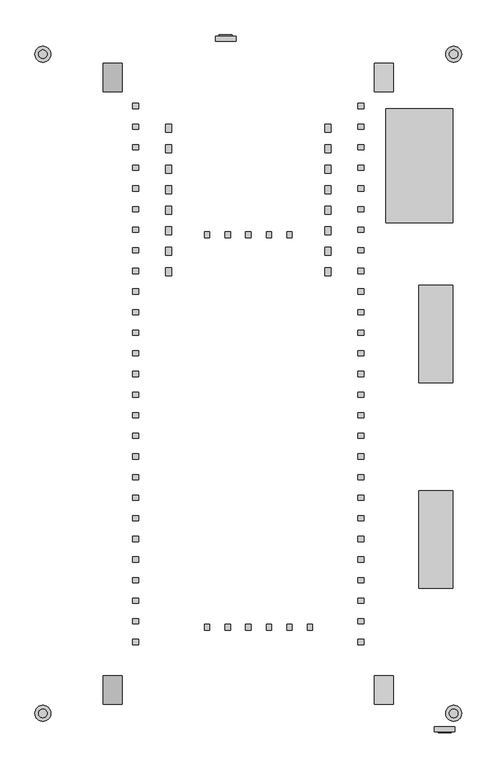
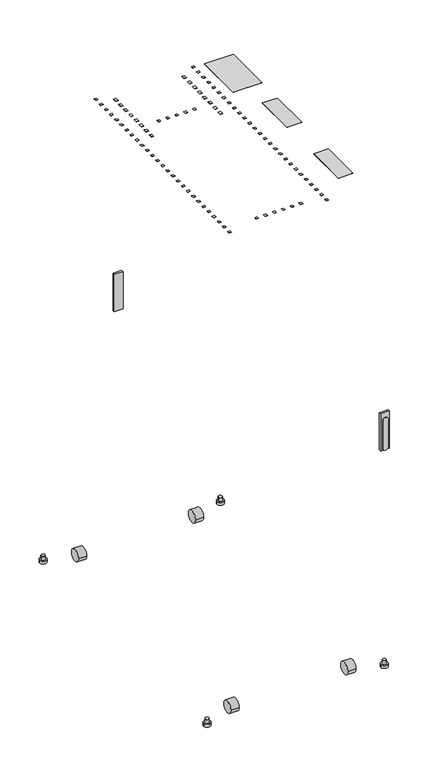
"""IFC4 building model written with IfcOpenShell, lengths in millimetres: proxy geometry, AR3350_NetShelter_SX_Series_Rack_Enclosure_Schneider_Electric_BIM_Model : AR3350 - NetShelter SX, 42U, 750mm Wide X 1200mm Depth."""

from ifc_helpers import new_model, si_unit, point, frame, frame_2d, origin, place, context, project, spatial, polyline, circle_curve, trimmed, segment, composite_curve, outline, extrude, source, transform, mapped, element, save
from ifc_brep_helpers import plane_surface, cylinder_surface, advanced_brep


def mechanical_equipment_8686b27a(model_context):
    return source(origin(), model_context, "Body", "SolidModel", [
        extrude(outline(polyline([(241.5, 547.0), (358.5, 547.0), (358.5, 347.0), (241.5, 347.0), (241.5, 547.0)])), frame((0.0, 0.0, 1991.0), z_axis=(0.0, 0.0, 1.0), x_axis=(1.0, 0.0, 0.0)), (0.0, 0.0, 1.0), 1.0),
        extrude(outline(polyline([(358.5, 238.0), (358.5, 67.0), (298.5, 67.0), (298.5, 238.0), (358.5, 238.0)])), frame((0.0, 0.0, 1991.0), z_axis=(0.0, 0.0, 1.0), x_axis=(1.0, 0.0, 0.0)), (0.0, 0.0, 1.0), 1.0),
        extrude(outline(polyline([(358.5, -122.0), (358.5, -293.0), (298.5, -293.0), (298.5, -122.0), (358.5, -122.0)])), frame((0.0, 0.0, 1991.0), z_axis=(0.0, 0.0, 1.0), x_axis=(1.0, 0.0, 0.0)), (0.0, 0.0, 1.0), 1.0),
        extrude(outline(composite_curve([segment(trimmed(circle_curve(frame_2d((-470.5, 25.0)), 25.0), [point((-495.5, 25.0))], [point((-445.5, 25.0))], False, "CARTESIAN"), True, "CONTINUOUS"), segment(trimmed(circle_curve(frame_2d((-470.5, 25.0)), 25.0), [point((-445.5, 25.0))], [point((-495.5, 25.0))], False, "CARTESIAN"), True, "CONTINUOUS")], self_intersect=False)), frame((-254.0, 0.0, 0.0), z_axis=(1.0, 0.0, 0.0), x_axis=(0.0, 1.0, 0.0)), (0.0, 0.0, 1.0), 33.0),
        extrude(outline(composite_curve([segment(trimmed(circle_curve(frame_2d((-470.5, 25.0)), 25.0), [point((-495.5, 25.0))], [point((-445.5, 25.0))], False, "CARTESIAN"), True, "CONTINUOUS"), segment(trimmed(circle_curve(frame_2d((-470.5, 25.0)), 25.0), [point((-445.5, 25.0))], [point((-495.5, 25.0))], False, "CARTESIAN"), True, "CONTINUOUS")], self_intersect=False)), frame((221.0, 0.0, 0.0), z_axis=(1.0, 0.0, 0.0), x_axis=(0.0, 1.0, 0.0)), (0.0, 0.0, 1.0), 33.0),
        extrude(outline(composite_curve([segment(trimmed(circle_curve(frame_2d((601.5, 25.0)), 25.0), [point((626.5, 25.0))], [point((576.5, 25.0))], False, "CARTESIAN"), True, "CONTINUOUS"), segment(trimmed(circle_curve(frame_2d((601.5, 25.0)), 25.0), [point((576.5, 25.0))], [point((626.5, 25.0))], False, "CARTESIAN"), True, "CONTINUOUS")], self_intersect=False)), frame((-254.0, 0.0, 0.0), z_axis=(1.0, 0.0, 0.0), x_axis=(0.0, 1.0, 0.0)), (0.0, 0.0, 1.0), 33.0),
        extrude(outline(composite_curve([segment(trimmed(circle_curve(frame_2d((601.5, 25.0)), 25.0), [point((626.5, 25.0))], [point((576.5, 25.0))], False, "CARTESIAN"), True, "CONTINUOUS"), segment(trimmed(circle_curve(frame_2d((601.5, 25.0)), 25.0), [point((576.5, 25.0))], [point((626.5, 25.0))], False, "CARTESIAN"), True, "CONTINUOUS")], self_intersect=False)), frame((221.0, 0.0, 0.0), z_axis=(1.0, 0.0, 0.0), x_axis=(0.0, 1.0, 0.0)), (0.0, 0.0, 1.0), 33.0),
        advanced_brep(
        [(326.3368526, -544.0499756, 1123.0590115), (326.3368526, -544.0499756, 963.0), (340.969139, -544.0499756, 963.0), (339.8974651, -544.0499756, 963.3154611), (337.9643537, -544.0499756, 964.3170777), (336.2655133, -544.0499756, 965.6659795), (332.9142777, -544.0499756, 973.9455005), (332.9142777, -544.0499756, 979.9131415), (332.9142777, -544.0499756, 981.4978364), (332.9142777, -544.0499756, 1091.5384088), (355.4225766, -544.0499756, 1091.5384088), (355.4225766, -544.0499756, 981.4978364), (355.4225766, -544.0499756, 979.9131415), (355.4225766, -544.0499756, 973.9455005), (352.071341, -544.0499756, 965.6659795), (350.3725006, -544.0499756, 964.3170777), (348.4393893, -544.0499756, 963.3154611), (347.3677154, -544.0499756, 963.0), (362.0, -544.0499756, 963.0), (362.0, -544.0499756, 1123.0590115), (326.3368526, -535.0499756, 1123.0590115), (362.0, -535.0499756, 1123.0590115), (362.0, -535.0499756, 963.0), (326.3368526, -535.0499756, 963.0), (352.071341, -546.0499756, 965.6659795), (355.4225766, -546.0499756, 973.9455005), (355.4225766, -546.0499756, 979.9131415), (355.4225766, -546.0499756, 981.4978364), (355.4225766, -546.0499756, 1091.5384088), (332.9142777, -546.0499756, 1091.5384088), (332.9142777, -546.0499756, 981.4978364), (332.9142777, -546.0499756, 979.9131415), (332.9142777, -546.0499756, 973.9455005), (336.2655133, -546.0499756, 965.6659795), (337.9643537, -546.0499756, 964.3170777), (339.8974651, -546.0499756, 963.3154611), (341.9918515, -546.0499756, 962.6989514), (344.1684272, -546.0499756, 962.4908285), (346.3450029, -546.0499756, 962.6989514), (348.4393893, -546.0499756, 963.3154611), (350.3725006, -546.0499756, 964.3170777), (341.9918515, -544.0499756, 962.6989514), (346.3450029, -544.0499756, 962.6989514), (344.1684272, -544.0499756, 962.4908285)],
        [
            (0, 1),
            (1, 2),
            (2, 3),
            (3, 4),
            (4, 5),
            (5, 6, circle_curve(frame((345.3369777, -544.0499756, 974.1557506), z_axis=(0.0, 1.0, 0.0), x_axis=(-1.0, 0.0, 0.0)), 12.4244791)),
            (6, 7),
            (7, 8),
            (8, 9),
            (9, 10, circle_curve(frame((344.1684272, -544.0499756, 1091.5384088), z_axis=(0.0, 1.0, 0.0), x_axis=(-1.0, 0.0, 0.0)), 11.2541494)),
            (10, 11),
            (11, 12),
            (12, 13),
            (13, 14, circle_curve(frame((342.9998766, -544.0499756, 974.1557506), z_axis=(0.0, 1.0, 0.0), x_axis=(-1.0, 0.0, 0.0)), 12.4244791)),
            (14, 15),
            (15, 16),
            (16, 17),
            (17, 18),
            (18, 19),
            (19, 0),
            (20, 21),
            (21, 22),
            (22, 23),
            (23, 20),
            (19, 21),
            (20, 0),
            (18, 22),
            (17, 2),
            (1, 23),
            (24, 25, circle_curve(frame((342.9998766, -546.0499756, 974.1557506), z_axis=(0.0, -1.0, 0.0), x_axis=(-1.0, 0.0, 0.0)), 12.4244791)),
            (25, 26),
            (26, 27),
            (27, 28),
            (28, 29, circle_curve(frame((344.1684272, -546.0499756, 1091.5384088), z_axis=(0.0, -1.0, 0.0), x_axis=(-1.0, 0.0, 0.0)), 11.2541494)),
            (29, 30),
            (30, 31),
            (31, 32),
            (32, 33, circle_curve(frame((345.3369777, -546.0499756, 974.1557506), z_axis=(0.0, -1.0, 0.0), x_axis=(-1.0, 0.0, 0.0)), 12.4244791)),
            (33, 34),
            (34, 35),
            (35, 36),
            (36, 37),
            (37, 38),
            (38, 39),
            (39, 40),
            (40, 24),
            (41, 2),
            (17, 42),
            (42, 43),
            (43, 41),
            (40, 15),
            (14, 24),
            (39, 16),
            (38, 42),
            (37, 43),
            (36, 41),
            (35, 3),
            (34, 4),
            (33, 5),
            (32, 6),
            (31, 7),
            (30, 8),
            (29, 9),
            (28, 10),
            (27, 11),
            (26, 12),
            (25, 13),
        ],
        [
            plane_surface(frame((362.0, -544.0499756, 1123.0590115), z_axis=(0.0, -1.0, 0.0), x_axis=(1.0, 0.0, 0.0))),
            plane_surface(frame((362.0, -535.0499756, 1123.0590115), z_axis=(0.0, 1.0, 0.0), x_axis=(-1.0, 0.0, 0.0))),
            plane_surface(frame((326.3368526, -544.0499756, 1123.0590115), z_axis=(0.0, 0.0, 1.0), x_axis=(0.0, 1.0, 0.0))),
            plane_surface(frame((362.0, -544.0499756, 1123.0590115), z_axis=(1.0, 0.0, 0.0), x_axis=(0.0, 1.0, 0.0))),
            plane_surface(frame((362.0, -544.0499756, 963.0), z_axis=(0.0, 0.0, -1.0), x_axis=(0.0, 1.0, 0.0))),
            plane_surface(frame((326.3368526, -544.0499756, 963.0), z_axis=(-1.0, 0.0, 0.0), x_axis=(0.0, 1.0, 0.0))),
            plane_surface(frame((350.3725006, -546.0499756, 964.3170777), z_axis=(0.0, -1.0, 0.0), x_axis=(-0.7831506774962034, 0.0, -0.6218319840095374))),
            plane_surface(frame((350.3725006, -544.0499756, 964.3170777), z_axis=(0.0, 1.0, 0.0), x_axis=(0.7831506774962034, 0.0, 0.6218319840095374))),
            plane_surface(frame((352.071341, -546.0499756, 965.6659795), z_axis=(0.6218319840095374, 0.0, -0.7831506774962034), x_axis=(0.0, 1.0, 0.0))),
            plane_surface(frame((350.3725006, -546.0499756, 964.3170777), z_axis=(0.4600502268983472, 0.0, -0.8878928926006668), x_axis=(0.0, 1.0, 0.0))),
            plane_surface(frame((348.4393893, -546.0499756, 963.3154611), z_axis=(0.28238288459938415, 0.0, -0.9593017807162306), x_axis=(0.0, 1.0, 0.0))),
            plane_surface(frame((346.3450029, -546.0499756, 962.6989514), z_axis=(0.09518525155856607, 0.0, -0.9954595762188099), x_axis=(0.0, 1.0, 0.0))),
            plane_surface(frame((344.1684272, -546.0499756, 962.4908285), z_axis=(-0.09518525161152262, 0.0, -0.9954595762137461), x_axis=(0.0, 1.0, 0.0))),
            plane_surface(frame((341.9918515, -546.0499756, 962.6989514), z_axis=(-0.2823828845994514, 0.0, -0.9593017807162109), x_axis=(0.0, 1.0, 0.0))),
            plane_surface(frame((339.8974651, -546.0499756, 963.3154611), z_axis=(-0.4600502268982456, 0.0, -0.8878928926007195), x_axis=(0.0, 1.0, 0.0))),
            plane_surface(frame((337.9643537, -546.0499756, 964.3170777), z_axis=(-0.6218319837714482, 0.0, -0.7831506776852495), x_axis=(0.0, 1.0, 0.0))),
            cylinder_surface(frame((345.3369777, -544.0499756, 974.1557506), z_axis=(0.0, -1.0, 0.0), x_axis=(-1.0, 0.0, 0.0)), 12.4244791),
            plane_surface(frame((332.9142777, -546.0499756, 973.9455005), z_axis=(-1.0, 0.0, 0.0), x_axis=(0.0, 1.0, 0.0))),
            plane_surface(frame((332.9142777, -546.0499756, 979.9131415), z_axis=(-1.0, 0.0, 0.0), x_axis=(0.0, 1.0, 0.0))),
            plane_surface(frame((332.9142777, -546.0499756, 981.4978364), z_axis=(-1.0, 0.0, 0.0), x_axis=(0.0, 1.0, 0.0))),
            cylinder_surface(frame((344.1684272, -544.0499756, 1091.5384088), z_axis=(0.0, -1.0, 0.0), x_axis=(-1.0, 0.0, 0.0)), 11.2541494),
            plane_surface(frame((355.4225766, -546.0499756, 1091.5384088), z_axis=(1.0, 0.0, -1.3564306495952e-10), x_axis=(0.0, 1.0, 0.0))),
            plane_surface(frame((355.4225766, -546.0499756, 981.4978364), z_axis=(1.0, 0.0, 0.0), x_axis=(0.0, 1.0, 0.0))),
            plane_surface(frame((355.4225766, -546.0499756, 979.9131415), z_axis=(1.0, 0.0, 0.0), x_axis=(0.0, 1.0, 0.0))),
            cylinder_surface(frame((342.9998766, -544.0499756, 974.1557506), z_axis=(0.0, -1.0, 0.0), x_axis=(-1.0, 0.0, 0.0)), 12.4244791),
        ],
        [
            (0, [[1, 2, 3, 4, 5, 6, 7, 8, 9, 10, 11, 12, 13, 14, 15, 16, 17, 18, 19, 20]]),
            (1, [[21, 22, 23, 24]]),
            (2, [[25, -21, 26, -20]]),
            (3, [[27, -22, -25, -19]]),
            (4, [[-27, -18, 28, -2, 29, -23]]),
            (5, [[-26, -24, -29, -1]]),
            (6, [[30, 31, 32, 33, 34, 35, 36, 37, 38, 39, 40, 41, 42, 43, 44, 45, 46]]),
            (7, [[47, -28, 48, 49, 50]]),
            (8, [[51, -15, 52, -46]]),
            (9, [[53, -16, -51, -45]]),
            (10, [[54, -48, -17, -53, -44]]),
            (11, [[55, -49, -54, -43]]),
            (12, [[56, -50, -55, -42]]),
            (13, [[57, -3, -47, -56, -41]]),
            (14, [[58, -4, -57, -40]]),
            (15, [[59, -5, -58, -39]]),
            (16, [[60, -6, -59, -38]]),
            (17, [[61, -7, -60, -37]]),
            (18, [[62, -8, -61, -36]]),
            (19, [[63, -9, -62, -35]]),
            (20, [[64, -10, -63, -34]]),
            (21, [[65, -11, -64, -33]]),
            (22, [[66, -12, -65, -32]]),
            (23, [[67, -13, -66, -31]]),
            (24, [[-52, -14, -67, -30]]),
        ],
    ),
        extrude(outline(composite_curve([segment(trimmed(circle_curve(frame_2d((360.0, -511.5)), 7.5), [point((367.5, -511.5))], [point((352.5, -511.5))], False, "CARTESIAN"), True, "CONTINUOUS"), segment(trimmed(circle_curve(frame_2d((360.0, -511.5)), 7.5), [point((352.5, -511.5))], [point((367.5, -511.5))], False, "CARTESIAN"), True, "CONTINUOUS")], self_intersect=False)), frame((0.0, 0.0, 21.0), z_axis=(0.0, 0.0, 1.0), x_axis=(1.0, 0.0, 0.0)), (0.0, 0.0, 1.0), 16.0),
        extrude(outline(composite_curve([segment(trimmed(circle_curve(frame_2d((360.0, -511.5)), 14.0), [point((374.0, -511.5))], [point((346.0, -511.5))], False, "CARTESIAN"), True, "CONTINUOUS"), segment(trimmed(circle_curve(frame_2d((360.0, -511.5)), 14.0), [point((346.0, -511.5))], [point((374.0, -511.5))], False, "CARTESIAN"), True, "CONTINUOUS")], self_intersect=False)), frame((0.0, 0.0, 9.0), z_axis=(0.0, 0.0, 1.0), x_axis=(1.0, 0.0, 0.0)), (0.0, 0.0, 1.0), 12.0),
        extrude(outline(composite_curve([segment(trimmed(circle_curve(frame_2d((-360.0, -511.5)), 7.5), [point((-367.5, -511.5))], [point((-352.5, -511.5))], False, "CARTESIAN"), True, "CONTINUOUS"), segment(trimmed(circle_curve(frame_2d((-360.0, -511.5)), 7.5), [point((-352.5, -511.5))], [point((-367.5, -511.5))], False, "CARTESIAN"), True, "CONTINUOUS")], self_intersect=False)), frame((0.0, 0.0, 21.0), z_axis=(0.0, 0.0, 1.0), x_axis=(1.0, 0.0, 0.0)), (0.0, 0.0, 1.0), 16.0),
        extrude(outline(composite_curve([segment(trimmed(circle_curve(frame_2d((-360.0, -511.5)), 14.0), [point((-374.0, -511.5))], [point((-346.0, -511.5))], False, "CARTESIAN"), True, "CONTINUOUS"), segment(trimmed(circle_curve(frame_2d((-360.0, -511.5)), 14.0), [point((-346.0, -511.5))], [point((-374.0, -511.5))], False, "CARTESIAN"), True, "CONTINUOUS")], self_intersect=False)), frame((0.0, 0.0, 9.0), z_axis=(0.0, 0.0, 1.0), x_axis=(1.0, 0.0, 0.0)), (0.0, 0.0, 1.0), 12.0),
        extrude(outline(composite_curve([segment(trimmed(circle_curve(frame_2d((360.0, 642.5)), 7.5), [point((367.5, 642.5))], [point((352.5, 642.5))], False, "CARTESIAN"), True, "CONTINUOUS"), segment(trimmed(circle_curve(frame_2d((360.0, 642.5)), 7.5), [point((352.5, 642.5))], [point((367.5, 642.5))], False, "CARTESIAN"), True, "CONTINUOUS")], self_intersect=False)), frame((0.0, 0.0, 21.0), z_axis=(0.0, 0.0, 1.0), x_axis=(1.0, 0.0, 0.0)), (0.0, 0.0, 1.0), 16.0),
        extrude(outline(composite_curve([segment(trimmed(circle_curve(frame_2d((360.0, 642.5)), 14.0), [point((374.0, 642.5))], [point((346.0, 642.5))], False, "CARTESIAN"), True, "CONTINUOUS"), segment(trimmed(circle_curve(frame_2d((360.0, 642.5)), 14.0), [point((346.0, 642.5))], [point((374.0, 642.5))], False, "CARTESIAN"), True, "CONTINUOUS")], self_intersect=False)), frame((0.0, 0.0, 9.0), z_axis=(0.0, 0.0, 1.0), x_axis=(1.0, 0.0, 0.0)), (0.0, 0.0, 1.0), 12.0),
        advanced_brep(
        [(-367.5, 642.5, 37.0), (-352.5, 642.5, 37.0), (-367.5, 642.5, 21.0), (-352.5, 642.5, 21.0), (-374.0, 642.5, 21.0), (-346.0, 642.5, 21.0), (-374.0, 642.5, 9.0), (-346.0, 642.5, 9.0)],
        [
            (0, 1, circle_curve(frame((-360.0, 642.5, 37.0), z_axis=(0.0, 0.0, 1.0), x_axis=(1.0, 0.0, 0.0)), 7.5)),
            (1, 0, circle_curve(frame((-360.0, 642.5, 37.0), z_axis=(0.0, 0.0, 1.0), x_axis=(1.0, 0.0, 0.0)), 7.5)),
            (0, 2),
            (2, 3, circle_curve(frame((-360.0, 642.5, 21.0), z_axis=(0.0, 0.0, 1.0), x_axis=(1.0, 0.0, 0.0)), 7.5)),
            (3, 1),
            (3, 2, circle_curve(frame((-360.0, 642.5, 21.0), z_axis=(0.0, 0.0, 1.0), x_axis=(1.0, 0.0, 0.0)), 7.5)),
            (4, 5, circle_curve(frame((-360.0, 642.5, 21.0), z_axis=(0.0, 0.0, 1.0), x_axis=(1.0, 0.0, 0.0)), 14.0)),
            (5, 4, circle_curve(frame((-360.0, 642.5, 21.0), z_axis=(0.0, 0.0, 1.0), x_axis=(1.0, 0.0, 0.0)), 14.0)),
            (6, 7, circle_curve(frame((-360.0, 642.5, 9.0), z_axis=(0.0, 0.0, -1.0), x_axis=(1.0, 0.0, 0.0)), 14.0)),
            (7, 6, circle_curve(frame((-360.0, 642.5, 9.0), z_axis=(0.0, 0.0, -1.0), x_axis=(1.0, 0.0, 0.0)), 14.0)),
            (4, 6),
            (7, 5),
        ],
        [
            plane_surface(frame((-352.5, 642.5, 37.0), z_axis=(0.0, 0.0, 1.0), x_axis=(0.0, 1.0, 0.0))),
            cylinder_surface(frame((-360.0, 642.5, 21.0), z_axis=(0.0, 0.0, 1.0), x_axis=(1.0, 0.0, 0.0)), 7.5),
            plane_surface(frame((-346.0, 642.5, 21.0), z_axis=(0.0, 0.0, 1.0), x_axis=(0.0, 1.0, 0.0))),
            plane_surface(frame((-346.0, 642.5, 9.0), z_axis=(0.0, 0.0, -1.0), x_axis=(0.0, -1.0, 0.0))),
            cylinder_surface(frame((-360.0, 642.5, 9.0), z_axis=(0.0, 0.0, 1.0), x_axis=(1.0, 0.0, 0.0)), 14.0),
        ],
        [
            (0, [[1, 2]]),
            (1, [[-1, 3, 4, 5]]),
            (1, [[-2, -5, 6, -3]]),
            (2, [[7, 8], [-4, -6]]),
            (3, [[9, 10]]),
            (4, [[-7, 11, -10, 12]]),
            (4, [[-8, -12, -9, -11]]),
        ],
    ),
        advanced_brep(
        [(-57.4775271, 673.9999881, 1122.0590115), (-21.8143797, 673.9999881, 1122.0590115), (-21.8143797, 673.9999881, 962.0), (-36.4466643, 673.9999881, 962.0), (-35.3749904, 673.9999881, 962.3154611), (-33.4418791, 673.9999881, 963.3170777), (-31.7430387, 673.9999881, 964.6659794), (-28.3918031, 673.9999881, 972.9455005), (-28.3918031, 673.9999881, 978.9131415), (-28.3918031, 673.9999881, 980.4978364), (-28.391803, 673.9999881, 1090.5384088), (-50.9001019, 673.9999881, 1090.5384088), (-50.900102, 673.9999881, 980.4978364), (-50.900102, 673.9999881, 978.9131415), (-50.900102, 673.9999881, 972.9455005), (-47.5488663, 673.9999881, 964.6659795), (-45.8500259, 673.9999881, 963.3170777), (-43.9169146, 673.9999881, 962.3154611), (-42.8452407, 673.9999881, 962.0), (-57.4775271, 673.9999881, 962.0), (-57.4775271, 664.9999881, 1122.0590115), (-57.4775271, 664.9999881, 962.0), (-21.8143797, 664.9999881, 962.0), (-21.8143797, 664.9999881, 1122.0590115), (-31.7430387, 675.9999881, 964.6659794), (-33.4418791, 675.9999881, 963.3170777), (-35.3749904, 675.9999881, 962.3154611), (-37.4693768, 675.9999881, 961.6989514), (-39.6459525, 675.9999881, 961.4908285), (-41.8225282, 675.9999881, 961.6989514), (-43.9169146, 675.9999881, 962.3154611), (-45.8500259, 675.9999881, 963.3170777), (-47.5488663, 675.9999881, 964.6659795), (-50.900102, 675.9999881, 972.9455005), (-50.900102, 675.9999881, 978.9131415), (-50.900102, 675.9999881, 980.4978364), (-50.900102, 675.9999881, 1090.5384088), (-28.391803, 675.9999881, 1090.5384088), (-28.3918031, 675.9999881, 980.4978364), (-28.3918031, 675.9999881, 978.9131415), (-28.3918031, 675.9999881, 972.9455005), (-41.8225282, 673.9999881, 961.6989514), (-39.6459525, 673.9999881, 961.4908285), (-37.4693768, 673.9999881, 961.6989514)],
        [
            (0, 1),
            (1, 2),
            (2, 3),
            (3, 4),
            (4, 5),
            (5, 6),
            (6, 7, circle_curve(frame((-40.814503, 673.9999881, 973.1557506), z_axis=(0.0, -1.0, 0.0), x_axis=(-1.0, 0.0, 0.0)), 12.4244791)),
            (7, 8),
            (8, 9),
            (9, 10),
            (10, 11, circle_curve(frame((-39.6459525, 673.9999881, 1090.5384088), z_axis=(0.0, -1.0, 0.0), x_axis=(-1.0, 0.0, 0.0)), 11.2541494)),
            (11, 12),
            (12, 13),
            (13, 14),
            (14, 15, circle_curve(frame((-38.477402, 673.9999881, 973.1557506), z_axis=(0.0, -1.0, 0.0), x_axis=(-1.0, 0.0, 0.0)), 12.4244791)),
            (15, 16),
            (16, 17),
            (17, 18),
            (18, 19),
            (19, 0),
            (20, 21),
            (21, 22),
            (22, 23),
            (23, 20),
            (0, 20),
            (23, 1),
            (22, 2),
            (21, 19),
            (18, 3),
            (24, 25),
            (25, 26),
            (26, 27),
            (27, 28),
            (28, 29),
            (29, 30),
            (30, 31),
            (31, 32),
            (32, 33, circle_curve(frame((-38.477402, 675.9999881, 973.1557506), z_axis=(0.0, 1.0, 0.0), x_axis=(-1.0, 0.0, 0.0)), 12.4244791)),
            (33, 34),
            (34, 35),
            (35, 36),
            (36, 37, circle_curve(frame((-39.6459525, 675.9999881, 1090.5384088), z_axis=(0.0, 1.0, 0.0), x_axis=(-1.0, 0.0, 0.0)), 11.2541494)),
            (37, 38),
            (38, 39),
            (39, 40),
            (40, 24, circle_curve(frame((-40.814503, 675.9999881, 973.1557506), z_axis=(0.0, 1.0, 0.0), x_axis=(-1.0, 0.0, 0.0)), 12.4244791)),
            (41, 42),
            (42, 43),
            (43, 3),
            (18, 41),
            (24, 6),
            (5, 25),
            (4, 26),
            (43, 27),
            (42, 28),
            (41, 29),
            (17, 30),
            (16, 31),
            (15, 32),
            (14, 33),
            (13, 34),
            (12, 35),
            (11, 36),
            (10, 37),
            (9, 38),
            (8, 39),
            (7, 40),
        ],
        [
            plane_surface(frame((-21.8143797, 673.9999881, 1122.0590115), z_axis=(0.0, 1.0, 0.0), x_axis=(1.0, 0.0, 0.0))),
            plane_surface(frame((-21.8143797, 664.9999881, 1122.0590115), z_axis=(0.0, -1.0, 0.0), x_axis=(-1.0, 0.0, 0.0))),
            plane_surface(frame((-57.4775271, 673.9999881, 1122.0590115), z_axis=(0.0, 0.0, 1.0), x_axis=(0.0, -1.0, 0.0))),
            plane_surface(frame((-21.8143797, 673.9999881, 1122.0590115), z_axis=(1.0, 0.0, 0.0), x_axis=(0.0, -1.0, 0.0))),
            plane_surface(frame((-21.8143797, 673.9999881, 962.0), z_axis=(0.0, 0.0, -1.0), x_axis=(0.0, -1.0, 0.0))),
            plane_surface(frame((-57.4775271, 673.9999881, 962.0), z_axis=(-1.0, 0.0, 0.0), x_axis=(0.0, -1.0, 0.0))),
            plane_surface(frame((-33.4418791, 675.9999881, 963.3170777), z_axis=(0.0, 1.0, 0.0), x_axis=(-0.7831506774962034, 0.0, -0.6218319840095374))),
            plane_surface(frame((-33.4418791, 673.9999881, 963.3170777), z_axis=(0.0, -1.0, 0.0), x_axis=(0.7831506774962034, 0.0, 0.6218319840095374))),
            plane_surface(frame((-31.7430387, 675.9999881, 964.6659794), z_axis=(0.6218319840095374, 0.0, -0.7831506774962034), x_axis=(0.0, -1.0, 0.0))),
            plane_surface(frame((-33.4418791, 675.9999881, 963.3170777), z_axis=(0.4600502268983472, 0.0, -0.8878928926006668), x_axis=(0.0, -1.0, 0.0))),
            plane_surface(frame((-35.3749904, 675.9999881, 962.3154611), z_axis=(0.28238288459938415, 0.0, -0.9593017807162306), x_axis=(0.0, -1.0, 0.0))),
            plane_surface(frame((-37.4693768, 675.9999881, 961.6989514), z_axis=(0.09518525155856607, 0.0, -0.9954595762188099), x_axis=(0.0, -1.0, 0.0))),
            plane_surface(frame((-39.6459525, 675.9999881, 961.4908285), z_axis=(-0.09518525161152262, 0.0, -0.9954595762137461), x_axis=(0.0, -1.0, 0.0))),
            plane_surface(frame((-41.8225282, 675.9999881, 961.6989514), z_axis=(-0.2823828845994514, 0.0, -0.9593017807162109), x_axis=(0.0, -1.0, 0.0))),
            plane_surface(frame((-43.9169146, 675.9999881, 962.3154611), z_axis=(-0.4600502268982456, 0.0, -0.8878928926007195), x_axis=(0.0, -1.0, 0.0))),
            plane_surface(frame((-45.8500259, 675.9999881, 963.3170777), z_axis=(-0.6218319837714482, 0.0, -0.7831506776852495), x_axis=(0.0, -1.0, 0.0))),
            cylinder_surface(frame((-38.477402, 673.9999881, 973.1557506), z_axis=(0.0, 1.0, 0.0), x_axis=(-1.0, 0.0, 0.0)), 12.4244791),
            plane_surface(frame((-50.900102, 675.9999881, 972.9455005), z_axis=(-1.0, 0.0, 0.0), x_axis=(0.0, -1.0, 0.0))),
            plane_surface(frame((-50.900102, 675.9999881, 978.9131415), z_axis=(-1.0, 0.0, 0.0), x_axis=(0.0, -1.0, 0.0))),
            plane_surface(frame((-50.900102, 675.9999881, 980.4978364), z_axis=(-1.0, 0.0, 0.0), x_axis=(0.0, -1.0, 0.0))),
            cylinder_surface(frame((-39.6459525, 673.9999881, 1090.5384088), z_axis=(0.0, 1.0, 0.0), x_axis=(-1.0, 0.0, 0.0)), 11.2541494),
            plane_surface(frame((-28.391803, 675.9999881, 1090.5384088), z_axis=(1.0, 0.0, -1.3564306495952e-10), x_axis=(0.0, -1.0, 0.0))),
            plane_surface(frame((-28.3918031, 675.9999881, 980.4978364), z_axis=(1.0, 0.0, 0.0), x_axis=(0.0, -1.0, 0.0))),
            plane_surface(frame((-28.3918031, 675.9999881, 978.9131415), z_axis=(1.0, 0.0, 0.0), x_axis=(0.0, -1.0, 0.0))),
            cylinder_surface(frame((-40.814503, 673.9999881, 973.1557506), z_axis=(0.0, 1.0, 0.0), x_axis=(-1.0, 0.0, 0.0)), 12.4244791),
        ],
        [
            (0, [[1, 2, 3, 4, 5, 6, 7, 8, 9, 10, 11, 12, 13, 14, 15, 16, 17, 18, 19, 20]]),
            (1, [[21, 22, 23, 24]]),
            (2, [[-1, 25, -24, 26]]),
            (3, [[-2, -26, -23, 27]]),
            (4, [[-22, 28, -19, 29, -3, -27]]),
            (5, [[-20, -28, -21, -25]]),
            (6, [[30, 31, 32, 33, 34, 35, 36, 37, 38, 39, 40, 41, 42, 43, 44, 45, 46]]),
            (7, [[47, 48, 49, -29, 50]]),
            (8, [[-30, 51, -6, 52]]),
            (9, [[-31, -52, -5, 53]]),
            (10, [[-32, -53, -4, -49, 54]]),
            (11, [[-33, -54, -48, 55]]),
            (12, [[-34, -55, -47, 56]]),
            (13, [[-35, -56, -50, -18, 57]]),
            (14, [[-36, -57, -17, 58]]),
            (15, [[-37, -58, -16, 59]]),
            (16, [[-38, -59, -15, 60]]),
            (17, [[-39, -60, -14, 61]]),
            (18, [[-40, -61, -13, 62]]),
            (19, [[-41, -62, -12, 63]]),
            (20, [[-42, -63, -11, 64]]),
            (21, [[-43, -64, -10, 65]]),
            (22, [[-44, -65, -9, 66]]),
            (23, [[-45, -66, -8, 67]]),
            (24, [[-46, -67, -7, -51]]),
        ],
    ),
        extrude(outline(polyline([(-202.5000006, 519.9066986), (-192.4999952, 519.9066986), (-192.4999952, 510.9066952), (-202.5000006, 510.9066952), (-202.5000006, 519.9066986)])), frame((0.0, 0.0, 1991.0), z_axis=(0.0, 0.0, 1.0), x_axis=(1.0, 0.0, 0.0)), (0.0, 0.0, 1.0), 1.0),
        extrude(outline(polyline([(192.4999952, 519.9066986), (202.5000006, 519.9066986), (202.5000006, 510.9066952), (192.4999952, 510.9066952), (192.4999952, 519.9066986)])), frame((0.0, 0.0, 1991.0), z_axis=(0.0, 0.0, 1.0), x_axis=(1.0, 0.0, 0.0)), (0.0, 0.0, 1.0), 1.0),
        extrude(outline(polyline([(-202.5000006, 483.8133972), (-192.4999952, 483.8133972), (-192.4999952, 474.8133938), (-202.5000006, 474.8133938), (-202.5000006, 483.8133972)])), frame((0.0, 0.0, 1991.0), z_axis=(0.0, 0.0, 1.0), x_axis=(1.0, 0.0, 0.0)), (0.0, 0.0, 1.0), 1.0),
        extrude(outline(polyline([(192.4999952, 483.8133972), (202.5000006, 483.8133972), (202.5000006, 474.8133938), (192.4999952, 474.8133938), (192.4999952, 483.8133972)])), frame((0.0, 0.0, 1991.0), z_axis=(0.0, 0.0, 1.0), x_axis=(1.0, 0.0, 0.0)), (0.0, 0.0, 1.0), 1.0),
        extrude(outline(polyline([(-202.5000006, 447.7200957), (-192.4999952, 447.7200957), (-192.4999952, 438.7200924), (-202.5000006, 438.7200924), (-202.5000006, 447.7200957)])), frame((0.0, 0.0, 1991.0), z_axis=(0.0, 0.0, 1.0), x_axis=(1.0, 0.0, 0.0)), (0.0, 0.0, 1.0), 1.0),
        extrude(outline(polyline([(192.4999952, 447.7200957), (202.5000006, 447.7200957), (202.5000006, 438.7200924), (192.4999952, 438.7200924), (192.4999952, 447.7200957)])), frame((0.0, 0.0, 1991.0), z_axis=(0.0, 0.0, 1.0), x_axis=(1.0, 0.0, 0.0)), (0.0, 0.0, 1.0), 1.0),
        extrude(outline(polyline([(-202.5000006, 411.6267943), (-192.4999952, 411.6267943), (-192.4999952, 402.626791), (-202.5000006, 402.626791), (-202.5000006, 411.6267943)])), frame((0.0, 0.0, 1991.0), z_axis=(0.0, 0.0, 1.0), x_axis=(1.0, 0.0, 0.0)), (0.0, 0.0, 1.0), 1.0),
        extrude(outline(polyline([(192.4999952, 411.6267943), (202.5000006, 411.6267943), (202.5000006, 402.626791), (192.4999952, 402.626791), (192.4999952, 411.6267943)])), frame((0.0, 0.0, 1991.0), z_axis=(0.0, 0.0, 1.0), x_axis=(1.0, 0.0, 0.0)), (0.0, 0.0, 1.0), 1.0),
        extrude(outline(polyline([(-202.5000006, 375.5334929), (-192.4999952, 375.5334929), (-192.4999952, 366.5334896), (-202.5000006, 366.5334896), (-202.5000006, 375.5334929)])), frame((0.0, 0.0, 1991.0), z_axis=(0.0, 0.0, 1.0), x_axis=(1.0, 0.0, 0.0)), (0.0, 0.0, 1.0), 1.0),
        extrude(outline(polyline([(192.4999952, 375.5334929), (202.5000006, 375.5334929), (202.5000006, 366.5334896), (192.4999952, 366.5334896), (192.4999952, 375.5334929)])), frame((0.0, 0.0, 1991.0), z_axis=(0.0, 0.0, 1.0), x_axis=(1.0, 0.0, 0.0)), (0.0, 0.0, 1.0), 1.0),
        extrude(outline(polyline([(-202.5000006, 339.4401915), (-192.4999952, 339.4401915), (-192.4999952, 330.4401881), (-202.5000006, 330.4401881), (-202.5000006, 339.4401915)])), frame((0.0, 0.0, 1991.0), z_axis=(0.0, 0.0, 1.0), x_axis=(1.0, 0.0, 0.0)), (0.0, 0.0, 1.0), 1.0),
        extrude(outline(polyline([(192.4999952, 339.4401915), (202.5000006, 339.4401915), (202.5000006, 330.4401881), (192.4999952, 330.4401881), (192.4999952, 339.4401915)])), frame((0.0, 0.0, 1991.0), z_axis=(0.0, 0.0, 1.0), x_axis=(1.0, 0.0, 0.0)), (0.0, 0.0, 1.0), 1.0),
        extrude(outline(polyline([(-202.5000006, 303.3468901), (-192.4999952, 303.3468901), (-192.4999952, 294.3468867), (-202.5000006, 294.3468867), (-202.5000006, 303.3468901)])), frame((0.0, 0.0, 1991.0), z_axis=(0.0, 0.0, 1.0), x_axis=(1.0, 0.0, 0.0)), (0.0, 0.0, 1.0), 1.0),
        extrude(outline(polyline([(192.4999952, 303.3468901), (202.5000006, 303.3468901), (202.5000006, 294.3468867), (192.4999952, 294.3468867), (192.4999952, 303.3468901)])), frame((0.0, 0.0, 1991.0), z_axis=(0.0, 0.0, 1.0), x_axis=(1.0, 0.0, 0.0)), (0.0, 0.0, 1.0), 1.0),
        extrude(outline(polyline([(-202.5000006, 267.2535886), (-192.4999952, 267.2535886), (-192.4999952, 258.2535853), (-202.5000006, 258.2535853), (-202.5000006, 267.2535886)])), frame((0.0, 0.0, 1991.0), z_axis=(0.0, 0.0, 1.0), x_axis=(1.0, 0.0, 0.0)), (0.0, 0.0, 1.0), 1.0),
        extrude(outline(polyline([(192.4999952, 267.2535886), (202.5000006, 267.2535886), (202.5000006, 258.2535853), (192.4999952, 258.2535853), (192.4999952, 267.2535886)])), frame((0.0, 0.0, 1991.0), z_axis=(0.0, 0.0, 1.0), x_axis=(1.0, 0.0, 0.0)), (0.0, 0.0, 1.0), 1.0),
        extrude(outline(polyline([(-134.7000003, 519.9992911), (-134.7000003, 505.9992925), (-144.5000023, 505.9992925), (-144.5000023, 519.9992911), (-134.7000003, 519.9992911)])), frame((0.0, 0.0, 1991.0), z_axis=(0.0, 0.0, 1.0), x_axis=(1.0, 0.0, 0.0)), (0.0, 0.0, 1.0), 1.0),
        extrude(outline(polyline([(144.5000023, 519.9992911), (144.5000023, 505.9992925), (134.7000003, 505.9992925), (134.7000003, 519.9992911), (144.5000023, 519.9992911)])), frame((0.0, 0.0, 1991.0), z_axis=(0.0, 0.0, 1.0), x_axis=(1.0, 0.0, 0.0)), (0.0, 0.0, 1.0), 1.0),
        extrude(outline(polyline([(-134.7000003, 483.9985822), (-134.7000003, 469.9985836), (-144.5000023, 469.9985836), (-144.5000023, 483.9985822), (-134.7000003, 483.9985822)])), frame((0.0, 0.0, 1991.0), z_axis=(0.0, 0.0, 1.0), x_axis=(1.0, 0.0, 0.0)), (0.0, 0.0, 1.0), 1.0),
        extrude(outline(polyline([(144.5000023, 483.9985822), (144.5000023, 469.9985836), (134.7000003, 469.9985836), (134.7000003, 483.9985822), (144.5000023, 483.9985822)])), frame((0.0, 0.0, 1991.0), z_axis=(0.0, 0.0, 1.0), x_axis=(1.0, 0.0, 0.0)), (0.0, 0.0, 1.0), 1.0),
        extrude(outline(polyline([(-134.7000003, 447.9978733), (-134.7000003, 433.9978747), (-144.5000023, 433.9978747), (-144.5000023, 447.9978733), (-134.7000003, 447.9978733)])), frame((0.0, 0.0, 1991.0), z_axis=(0.0, 0.0, 1.0), x_axis=(1.0, 0.0, 0.0)), (0.0, 0.0, 1.0), 1.0),
        extrude(outline(polyline([(144.5000023, 447.9978733), (144.5000023, 433.9978747), (134.7000003, 433.9978747), (134.7000003, 447.9978733), (144.5000023, 447.9978733)])), frame((0.0, 0.0, 1991.0), z_axis=(0.0, 0.0, 1.0), x_axis=(1.0, 0.0, 0.0)), (0.0, 0.0, 1.0), 1.0),
        extrude(outline(polyline([(-134.7000003, 411.9971643), (-134.7000003, 397.9971658), (-144.5000023, 397.9971658), (-144.5000023, 411.9971643), (-134.7000003, 411.9971643)])), frame((0.0, 0.0, 1991.0), z_axis=(0.0, 0.0, 1.0), x_axis=(1.0, 0.0, 0.0)), (0.0, 0.0, 1.0), 1.0),
        extrude(outline(polyline([(144.5000023, 411.9971643), (144.5000023, 397.9971658), (134.7000003, 397.9971658), (134.7000003, 411.9971643), (144.5000023, 411.9971643)])), frame((0.0, 0.0, 1991.0), z_axis=(0.0, 0.0, 1.0), x_axis=(1.0, 0.0, 0.0)), (0.0, 0.0, 1.0), 1.0),
        extrude(outline(polyline([(-134.7000003, 375.9964554), (-134.7000003, 361.9964569), (-144.5000023, 361.9964569), (-144.5000023, 375.9964554), (-134.7000003, 375.9964554)])), frame((0.0, 0.0, 1991.0), z_axis=(0.0, 0.0, 1.0), x_axis=(1.0, 0.0, 0.0)), (0.0, 0.0, 1.0), 1.0),
        extrude(outline(polyline([(144.5000023, 375.9964554), (144.5000023, 361.9964569), (134.7000003, 361.9964569), (134.7000003, 375.9964554), (144.5000023, 375.9964554)])), frame((0.0, 0.0, 1991.0), z_axis=(0.0, 0.0, 1.0), x_axis=(1.0, 0.0, 0.0)), (0.0, 0.0, 1.0), 1.0),
        extrude(outline(polyline([(-134.7000003, 339.9957465), (-134.7000003, 325.9957479), (-144.5000023, 325.9957479), (-144.5000023, 339.9957465), (-134.7000003, 339.9957465)])), frame((0.0, 0.0, 1991.0), z_axis=(0.0, 0.0, 1.0), x_axis=(1.0, 0.0, 0.0)), (0.0, 0.0, 1.0), 1.0),
        extrude(outline(polyline([(144.5000023, 339.9957465), (144.5000023, 325.9957479), (134.7000003, 325.9957479), (134.7000003, 339.9957465), (144.5000023, 339.9957465)])), frame((0.0, 0.0, 1991.0), z_axis=(0.0, 0.0, 1.0), x_axis=(1.0, 0.0, 0.0)), (0.0, 0.0, 1.0), 1.0),
        extrude(outline(polyline([(-134.7000003, 303.9950376), (-134.7000003, 289.995039), (-144.5000023, 289.995039), (-144.5000023, 303.9950376), (-134.7000003, 303.9950376)])), frame((0.0, 0.0, 1991.0), z_axis=(0.0, 0.0, 1.0), x_axis=(1.0, 0.0, 0.0)), (0.0, 0.0, 1.0), 1.0),
        extrude(outline(polyline([(144.5000023, 303.9950376), (144.5000023, 289.995039), (134.7000003, 289.995039), (134.7000003, 303.9950376), (144.5000023, 303.9950376)])), frame((0.0, 0.0, 1991.0), z_axis=(0.0, 0.0, 1.0), x_axis=(1.0, 0.0, 0.0)), (0.0, 0.0, 1.0), 1.0),
        extrude(outline(polyline([(-134.7000003, 267.9943287), (-134.7000003, 253.9943301), (-144.5000023, 253.9943301), (-144.5000023, 267.9943287), (-134.7000003, 267.9943287)])), frame((0.0, 0.0, 1991.0), z_axis=(0.0, 0.0, 1.0), x_axis=(1.0, 0.0, 0.0)), (0.0, 0.0, 1.0), 1.0),
        extrude(outline(polyline([(144.5000023, 267.9943287), (144.5000023, 253.9943301), (134.7000003, 253.9943301), (134.7000003, 267.9943287), (144.5000023, 267.9943287)])), frame((0.0, 0.0, 1991.0), z_axis=(0.0, 0.0, 1.0), x_axis=(1.0, 0.0, 0.0)), (0.0, 0.0, 1.0), 1.0),
        extrude(outline(polyline([(76.4999998, -365.919142), (67.5000039, -365.919142), (67.5000039, -355.9191515), (76.4999998, -355.9191515), (76.4999998, -365.919142)])), frame((0.0, 0.0, 1991.0), z_axis=(0.0, 0.0, 1.0), x_axis=(1.0, 0.0, 0.0)), (0.0, 0.0, 1.0), 1.0),
        extrude(outline(polyline([(76.4999998, 321.0808645), (67.5000039, 321.0808645), (67.5000039, 331.0808549), (76.4999998, 331.0808549), (76.4999998, 321.0808645)])), frame((0.0, 0.0, 1991.0), z_axis=(0.0, 0.0, 1.0), x_axis=(1.0, 0.0, 0.0)), (0.0, 0.0, 1.0), 1.0),
        extrude(outline(polyline([(-202.5000006, 231.1602872), (-192.4999952, 231.1602872), (-192.4999952, 222.1602839), (-202.5000006, 222.1602839), (-202.5000006, 231.1602872)])), frame((0.0, 0.0, 1991.0), z_axis=(0.0, 0.0, 1.0), x_axis=(1.0, 0.0, 0.0)), (0.0, 0.0, 1.0), 1.0),
        extrude(outline(polyline([(192.4999952, 231.1602872), (202.5000006, 231.1602872), (202.5000006, 222.1602839), (192.4999952, 222.1602839), (192.4999952, 231.1602872)])), frame((0.0, 0.0, 1991.0), z_axis=(0.0, 0.0, 1.0), x_axis=(1.0, 0.0, 0.0)), (0.0, 0.0, 1.0), 1.0),
        extrude(outline(polyline([(-202.5000006, 195.0669858), (-192.4999952, 195.0669858), (-192.4999952, 186.0669825), (-202.5000006, 186.0669825), (-202.5000006, 195.0669858)])), frame((0.0, 0.0, 1991.0), z_axis=(0.0, 0.0, 1.0), x_axis=(1.0, 0.0, 0.0)), (0.0, 0.0, 1.0), 1.0),
        extrude(outline(polyline([(192.4999952, 195.0669858), (202.5000006, 195.0669858), (202.5000006, 186.0669825), (192.4999952, 186.0669825), (192.4999952, 195.0669858)])), frame((0.0, 0.0, 1991.0), z_axis=(0.0, 0.0, 1.0), x_axis=(1.0, 0.0, 0.0)), (0.0, 0.0, 1.0), 1.0),
        extrude(outline(polyline([(-202.5000006, 158.9736844), (-192.4999952, 158.9736844), (-192.4999952, 149.9736811), (-202.5000006, 149.9736811), (-202.5000006, 158.9736844)])), frame((0.0, 0.0, 1991.0), z_axis=(0.0, 0.0, 1.0), x_axis=(1.0, 0.0, 0.0)), (0.0, 0.0, 1.0), 1.0),
        extrude(outline(polyline([(192.4999952, 158.9736844), (202.5000006, 158.9736844), (202.5000006, 149.9736811), (192.4999952, 149.9736811), (192.4999952, 158.9736844)])), frame((0.0, 0.0, 1991.0), z_axis=(0.0, 0.0, 1.0), x_axis=(1.0, 0.0, 0.0)), (0.0, 0.0, 1.0), 1.0),
        extrude(outline(polyline([(-202.5000006, 122.880383), (-192.4999952, 122.880383), (-192.4999952, 113.8803796), (-202.5000006, 113.8803796), (-202.5000006, 122.880383)])), frame((0.0, 0.0, 1991.0), z_axis=(0.0, 0.0, 1.0), x_axis=(1.0, 0.0, 0.0)), (0.0, 0.0, 1.0), 1.0),
        extrude(outline(polyline([(192.4999952, 122.880383), (202.5000006, 122.880383), (202.5000006, 113.8803796), (192.4999952, 113.8803796), (192.4999952, 122.880383)])), frame((0.0, 0.0, 1991.0), z_axis=(0.0, 0.0, 1.0), x_axis=(1.0, 0.0, 0.0)), (0.0, 0.0, 1.0), 1.0),
        extrude(outline(polyline([(-202.5000006, 86.7870816), (-192.4999952, 86.7870816), (-192.4999952, 77.7870782), (-202.5000006, 77.7870782), (-202.5000006, 86.7870816)])), frame((0.0, 0.0, 1991.0), z_axis=(0.0, 0.0, 1.0), x_axis=(1.0, 0.0, 0.0)), (0.0, 0.0, 1.0), 1.0),
        extrude(outline(polyline([(192.4999952, 86.7870816), (202.5000006, 86.7870816), (202.5000006, 77.7870782), (192.4999952, 77.7870782), (192.4999952, 86.7870816)])), frame((0.0, 0.0, 1991.0), z_axis=(0.0, 0.0, 1.0), x_axis=(1.0, 0.0, 0.0)), (0.0, 0.0, 1.0), 1.0),
        extrude(outline(polyline([(-202.5000006, 50.6937801), (-192.4999952, 50.6937801), (-192.4999952, 41.6937768), (-202.5000006, 41.6937768), (-202.5000006, 50.6937801)])), frame((0.0, 0.0, 1991.0), z_axis=(0.0, 0.0, 1.0), x_axis=(1.0, 0.0, 0.0)), (0.0, 0.0, 1.0), 1.0),
        extrude(outline(polyline([(192.4999952, 50.6937801), (202.5000006, 50.6937801), (202.5000006, 41.6937768), (192.4999952, 41.6937768), (192.4999952, 50.6937801)])), frame((0.0, 0.0, 1991.0), z_axis=(0.0, 0.0, 1.0), x_axis=(1.0, 0.0, 0.0)), (0.0, 0.0, 1.0), 1.0),
        extrude(outline(polyline([(-202.5000006, 14.6004787), (-192.4999952, 14.6004787), (-192.4999952, 5.6004754), (-202.5000006, 5.6004754), (-202.5000006, 14.6004787)])), frame((0.0, 0.0, 1991.0), z_axis=(0.0, 0.0, 1.0), x_axis=(1.0, 0.0, 0.0)), (0.0, 0.0, 1.0), 1.0),
        extrude(outline(polyline([(192.4999952, 14.6004787), (202.5000006, 14.6004787), (202.5000006, 5.6004754), (192.4999952, 5.6004754), (192.4999952, 14.6004787)])), frame((0.0, 0.0, 1991.0), z_axis=(0.0, 0.0, 1.0), x_axis=(1.0, 0.0, 0.0)), (0.0, 0.0, 1.0), 1.0),
        extrude(outline(polyline([(-202.5000006, -21.4928227), (-192.4999952, -21.4928227), (-192.4999952, -30.492826), (-202.5000006, -30.492826), (-202.5000006, -21.4928227)])), frame((0.0, 0.0, 1991.0), z_axis=(0.0, 0.0, 1.0), x_axis=(1.0, 0.0, 0.0)), (0.0, 0.0, 1.0), 1.0),
        extrude(outline(polyline([(192.4999952, -21.4928227), (202.5000006, -21.4928227), (202.5000006, -30.492826), (192.4999952, -30.492826), (192.4999952, -21.4928227)])), frame((0.0, 0.0, 1991.0), z_axis=(0.0, 0.0, 1.0), x_axis=(1.0, 0.0, 0.0)), (0.0, 0.0, 1.0), 1.0),
        extrude(outline(polyline([(-202.5000006, -57.5861241), (-192.4999952, -57.5861241), (-192.4999952, -66.5861275), (-202.5000006, -66.5861275), (-202.5000006, -57.5861241)])), frame((0.0, 0.0, 1991.0), z_axis=(0.0, 0.0, 1.0), x_axis=(1.0, 0.0, 0.0)), (0.0, 0.0, 1.0), 1.0),
        extrude(outline(polyline([(192.4999952, -57.5861241), (202.5000006, -57.5861241), (202.5000006, -66.5861275), (192.4999952, -66.5861275), (192.4999952, -57.5861241)])), frame((0.0, 0.0, 1991.0), z_axis=(0.0, 0.0, 1.0), x_axis=(1.0, 0.0, 0.0)), (0.0, 0.0, 1.0), 1.0),
        extrude(outline(polyline([(-202.5000006, -93.6794255), (-192.4999952, -93.6794255), (-192.4999952, -102.6794289), (-202.5000006, -102.6794289), (-202.5000006, -93.6794255)])), frame((0.0, 0.0, 1991.0), z_axis=(0.0, 0.0, 1.0), x_axis=(1.0, 0.0, 0.0)), (0.0, 0.0, 1.0), 1.0),
        extrude(outline(polyline([(192.4999952, -93.6794255), (202.5000006, -93.6794255), (202.5000006, -102.6794289), (192.4999952, -102.6794289), (192.4999952, -93.6794255)])), frame((0.0, 0.0, 1991.0), z_axis=(0.0, 0.0, 1.0), x_axis=(1.0, 0.0, 0.0)), (0.0, 0.0, 1.0), 1.0),
        extrude(outline(polyline([(-202.5000006, -129.772727), (-192.4999952, -129.772727), (-192.4999952, -138.7727303), (-202.5000006, -138.7727303), (-202.5000006, -129.772727)])), frame((0.0, 0.0, 1991.0), z_axis=(0.0, 0.0, 1.0), x_axis=(1.0, 0.0, 0.0)), (0.0, 0.0, 1.0), 1.0),
        extrude(outline(polyline([(192.4999952, -129.772727), (202.5000006, -129.772727), (202.5000006, -138.7727303), (192.4999952, -138.7727303), (192.4999952, -129.772727)])), frame((0.0, 0.0, 1991.0), z_axis=(0.0, 0.0, 1.0), x_axis=(1.0, 0.0, 0.0)), (0.0, 0.0, 1.0), 1.0),
        extrude(outline(polyline([(-202.5000006, -165.8660284), (-192.4999952, -165.8660284), (-192.4999952, -174.8660317), (-202.5000006, -174.8660317), (-202.5000006, -165.8660284)])), frame((0.0, 0.0, 1991.0), z_axis=(0.0, 0.0, 1.0), x_axis=(1.0, 0.0, 0.0)), (0.0, 0.0, 1.0), 1.0),
        extrude(outline(polyline([(192.4999952, -165.8660284), (202.5000006, -165.8660284), (202.5000006, -174.8660317), (192.4999952, -174.8660317), (192.4999952, -165.8660284)])), frame((0.0, 0.0, 1991.0), z_axis=(0.0, 0.0, 1.0), x_axis=(1.0, 0.0, 0.0)), (0.0, 0.0, 1.0), 1.0),
        extrude(outline(polyline([(-202.5000006, -201.9593298), (-192.4999952, -201.9593298), (-192.4999952, -210.9593331), (-202.5000006, -210.9593331), (-202.5000006, -201.9593298)])), frame((0.0, 0.0, 1991.0), z_axis=(0.0, 0.0, 1.0), x_axis=(1.0, 0.0, 0.0)), (0.0, 0.0, 1.0), 1.0),
        extrude(outline(polyline([(192.4999952, -201.9593298), (202.5000006, -201.9593298), (202.5000006, -210.9593331), (192.4999952, -210.9593331), (192.4999952, -201.9593298)])), frame((0.0, 0.0, 1991.0), z_axis=(0.0, 0.0, 1.0), x_axis=(1.0, 0.0, 0.0)), (0.0, 0.0, 1.0), 1.0),
        extrude(outline(polyline([(-202.5000006, -238.0526312), (-192.4999952, -238.0526312), (-192.4999952, -247.0526346), (-202.5000006, -247.0526346), (-202.5000006, -238.0526312)])), frame((0.0, 0.0, 1991.0), z_axis=(0.0, 0.0, 1.0), x_axis=(1.0, 0.0, 0.0)), (0.0, 0.0, 1.0), 1.0),
        extrude(outline(polyline([(192.4999952, -238.0526312), (202.5000006, -238.0526312), (202.5000006, -247.0526346), (192.4999952, -247.0526346), (192.4999952, -238.0526312)])), frame((0.0, 0.0, 1991.0), z_axis=(0.0, 0.0, 1.0), x_axis=(1.0, 0.0, 0.0)), (0.0, 0.0, 1.0), 1.0),
        extrude(outline(polyline([(-202.5000006, -274.1459326), (-192.4999952, -274.1459326), (-192.4999952, -283.145936), (-202.5000006, -283.145936), (-202.5000006, -274.1459326)])), frame((0.0, 0.0, 1991.0), z_axis=(0.0, 0.0, 1.0), x_axis=(1.0, 0.0, 0.0)), (0.0, 0.0, 1.0), 1.0),
        extrude(outline(polyline([(192.4999952, -274.1459326), (202.5000006, -274.1459326), (202.5000006, -283.145936), (192.4999952, -283.145936), (192.4999952, -274.1459326)])), frame((0.0, 0.0, 1991.0), z_axis=(0.0, 0.0, 1.0), x_axis=(1.0, 0.0, 0.0)), (0.0, 0.0, 1.0), 1.0),
        extrude(outline(polyline([(-202.5000006, -310.2392341), (-192.4999952, -310.2392341), (-192.4999952, -319.2392374), (-202.5000006, -319.2392374), (-202.5000006, -310.2392341)])), frame((0.0, 0.0, 1991.0), z_axis=(0.0, 0.0, 1.0), x_axis=(1.0, 0.0, 0.0)), (0.0, 0.0, 1.0), 1.0),
        extrude(outline(polyline([(192.4999952, -310.2392341), (202.5000006, -310.2392341), (202.5000006, -319.2392374), (192.4999952, -319.2392374), (192.4999952, -310.2392341)])), frame((0.0, 0.0, 1991.0), z_axis=(0.0, 0.0, 1.0), x_axis=(1.0, 0.0, 0.0)), (0.0, 0.0, 1.0), 1.0),
        extrude(outline(polyline([(-202.5000006, -346.3325355), (-192.4999952, -346.3325355), (-192.4999952, -355.3325388), (-202.5000006, -355.3325388), (-202.5000006, -346.3325355)])), frame((0.0, 0.0, 1991.0), z_axis=(0.0, 0.0, 1.0), x_axis=(1.0, 0.0, 0.0)), (0.0, 0.0, 1.0), 1.0),
        extrude(outline(polyline([(192.4999952, -346.3325355), (202.5000006, -346.3325355), (202.5000006, -355.3325388), (192.4999952, -355.3325388), (192.4999952, -346.3325355)])), frame((0.0, 0.0, 1991.0), z_axis=(0.0, 0.0, 1.0), x_axis=(1.0, 0.0, 0.0)), (0.0, 0.0, 1.0), 1.0),
        extrude(outline(polyline([(-202.5000006, -382.4258369), (-192.4999952, -382.4258369), (-192.4999952, -391.4258402), (-202.5000006, -391.4258402), (-202.5000006, -382.4258369)])), frame((0.0, 0.0, 1991.0), z_axis=(0.0, 0.0, 1.0), x_axis=(1.0, 0.0, 0.0)), (0.0, 0.0, 1.0), 1.0),
        extrude(outline(polyline([(192.4999952, -382.4258369), (202.5000006, -382.4258369), (202.5000006, -391.4258402), (192.4999952, -391.4258402), (192.4999952, -382.4258369)])), frame((0.0, 0.0, 1991.0), z_axis=(0.0, 0.0, 1.0), x_axis=(1.0, 0.0, 0.0)), (0.0, 0.0, 1.0), 1.0),
        extrude(outline(polyline([(-202.5000006, 556.0), (-192.4999952, 556.0), (-192.4999952, 546.9999967), (-202.5000006, 546.9999967), (-202.5000006, 556.0)])), frame((0.0, 0.0, 1991.0), z_axis=(0.0, 0.0, 1.0), x_axis=(1.0, 0.0, 0.0)), (0.0, 0.0, 1.0), 1.0),
        extrude(outline(polyline([(192.4999952, 556.0), (202.5000006, 556.0), (202.5000006, 546.9999967), (192.4999952, 546.9999967), (192.4999952, 556.0)])), frame((0.0, 0.0, 1991.0), z_axis=(0.0, 0.0, 1.0), x_axis=(1.0, 0.0, 0.0)), (0.0, 0.0, 1.0), 1.0),
        extrude(outline(polyline([(40.4999996, -365.919142), (31.5000037, -365.919142), (31.5000037, -355.9191515), (40.4999996, -355.9191515), (40.4999996, -365.919142)])), frame((0.0, 0.0, 1991.0), z_axis=(0.0, 0.0, 1.0), x_axis=(1.0, 0.0, 0.0)), (0.0, 0.0, 1.0), 1.0),
        extrude(outline(polyline([(4.4999994, -365.919142), (-4.4999965, -365.919142), (-4.4999965, -355.9191515), (4.4999994, -355.9191515), (4.4999994, -365.919142)])), frame((0.0, 0.0, 1991.0), z_axis=(0.0, 0.0, 1.0), x_axis=(1.0, 0.0, 0.0)), (0.0, 0.0, 1.0), 1.0),
        extrude(outline(polyline([(-31.5000008, -365.919142), (-40.4999966, -365.919142), (-40.4999966, -355.9191515), (-31.5000008, -355.9191515), (-31.5000008, -365.919142)])), frame((0.0, 0.0, 1991.0), z_axis=(0.0, 0.0, 1.0), x_axis=(1.0, 0.0, 0.0)), (0.0, 0.0, 1.0), 1.0),
        extrude(outline(polyline([(-67.5000009, -365.919142), (-76.4999968, -365.919142), (-76.4999968, -355.9191515), (-67.5000009, -355.9191515), (-67.5000009, -365.919142)])), frame((0.0, 0.0, 1991.0), z_axis=(0.0, 0.0, 1.0), x_axis=(1.0, 0.0, 0.0)), (0.0, 0.0, 1.0), 1.0),
        extrude(outline(polyline([(40.4999996, 321.0808645), (31.5000037, 321.0808645), (31.5000037, 331.0808549), (40.4999996, 331.0808549), (40.4999996, 321.0808645)])), frame((0.0, 0.0, 1991.0), z_axis=(0.0, 0.0, 1.0), x_axis=(1.0, 0.0, 0.0)), (0.0, 0.0, 1.0), 1.0),
        extrude(outline(polyline([(4.4999994, 321.0808645), (-4.4999965, 321.0808645), (-4.4999965, 331.0808549), (4.4999994, 331.0808549), (4.4999994, 321.0808645)])), frame((0.0, 0.0, 1991.0), z_axis=(0.0, 0.0, 1.0), x_axis=(1.0, 0.0, 0.0)), (0.0, 0.0, 1.0), 1.0),
        extrude(outline(polyline([(-31.5000008, 321.0808645), (-40.4999966, 321.0808645), (-40.4999966, 331.0808549), (-31.5000008, 331.0808549), (-31.5000008, 321.0808645)])), frame((0.0, 0.0, 1991.0), z_axis=(0.0, 0.0, 1.0), x_axis=(1.0, 0.0, 0.0)), (0.0, 0.0, 1.0), 1.0),
        extrude(outline(polyline([(-67.5000009, 321.0808645), (-76.4999968, 321.0808645), (-76.4999968, 331.0808549), (-67.5000009, 331.0808549), (-67.5000009, 321.0808645)])), frame((0.0, 0.0, 1991.0), z_axis=(0.0, 0.0, 1.0), x_axis=(1.0, 0.0, 0.0)), (0.0, 0.0, 1.0), 1.0),
        extrude(outline(polyline([(112.5, -365.919142), (103.5000041, -365.919142), (103.5000041, -355.9191515), (112.5, -355.9191515), (112.5, -365.919142)])), frame((0.0, 0.0, 1991.0), z_axis=(0.0, 0.0, 1.0), x_axis=(1.0, 0.0, 0.0)), (0.0, 0.0, 1.0), 1.0),
    ])


if __name__ == "__main__":
    model = new_model("IFC4")
    model_context = context("Model", 3, world=origin())
    ifc_project = project(units=[si_unit("LENGTHUNIT", "METRE", prefix="MILLI")], contexts=[model_context])
    site = spatial("IfcSite", under=ifc_project)
    building = spatial("IfcBuilding", under=site)
    placement = place(None, origin())
    mechanical_equipment_shape = mechanical_equipment_8686b27a(model_context)
    element("IfcBuildingElementProxy", 1, Name="AR3350_NetShelter_SX_Series_Rack_Enclosure_Schneider_Electric_BIM_Model : AR3350 - NetShelter SX, 42U, 750mm Wide X 1200mm Depth", ObjectType="AR3350_NetShelter_SX_Series_Rack_Enclosure_Schneider_Electric_BIM_Model : AR3350 - NetShelter SX, 42U, 750mm Wide X 1200mm Depth", at=placement, inside=building, context=model_context, shape_type="MappedRepresentation", body=[
        mapped(mechanical_equipment_shape, transform((0.0, 0.0, 0.0), x_axis=(1.0, 0.0, 0.0), y_axis=(0.0, 1.0, 0.0), z_axis=(0.0, 0.0, 1.0))),
    ])
    save(model, "model.ifc")
